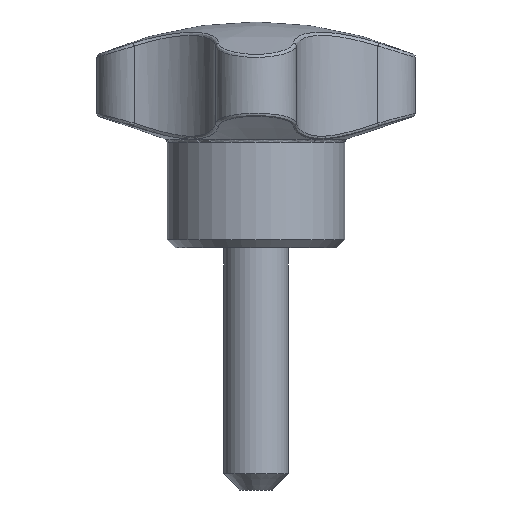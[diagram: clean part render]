
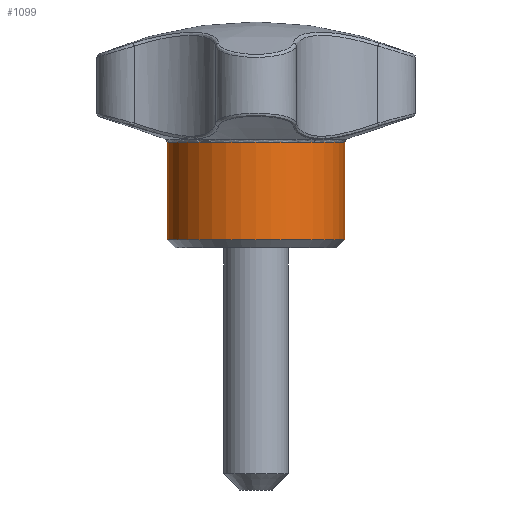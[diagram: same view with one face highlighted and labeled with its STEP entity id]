
A CAD part, front view. The second image highlights one B-rep face of the part: STEP entity #1099.
In plain terms, the highlighted cylindrical face has radius 5.5 mm (diameter 11 mm), a partial arc.
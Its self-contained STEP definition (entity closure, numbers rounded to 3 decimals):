
#1076 = ORIENTED_EDGE ( 'NONE', *, *, #3913, .T. ) ;
#1078 = EDGE_CURVE ( 'NONE', #3758, #3762, #2786, .T. ) ;
#1093 = EDGE_LOOP ( 'NONE', ( #1100, #1111, #1076, #1097 ) ) ;
#1097 = ORIENTED_EDGE ( 'NONE', *, *, #1078, .T. ) ;
#1099 = ADVANCED_FACE ( 'NONE', ( #2818 ), #2833, .T. ) ;
#1100 = ORIENTED_EDGE ( 'NONE', *, *, #3903, .F. ) ;
#1111 = ORIENTED_EDGE ( 'NONE', *, *, #3803, .T. ) ;
#2782 = DIRECTION ( 'NONE',  ( -1., 0., 0. ) ) ;
#2783 = DIRECTION ( 'NONE',  ( 0., 0., 1. ) ) ;
#2784 = CARTESIAN_POINT ( 'NONE',  ( 0., 0., 0.5 ) ) ;
#2785 = AXIS2_PLACEMENT_3D ( 'NONE', #2784, #2783, #2782 ) ;
#2786 = CIRCLE ( 'NONE', #2785, 5.5 ) ;
#2818 = FACE_OUTER_BOUND ( 'NONE', #1093, .T. ) ;
#2823 = CARTESIAN_POINT ( 'NONE',  ( 0., 0., -57. ) ) ;
#2830 = AXIS2_PLACEMENT_3D ( 'NONE', #2823, #2862, #2861 ) ;
#2833 = CYLINDRICAL_SURFACE ( 'NONE', #2830, 5.5 ) ;
#2861 = DIRECTION ( 'NONE',  ( -1., 0., 0. ) ) ;
#2862 = DIRECTION ( 'NONE',  ( 0., 0., -1. ) ) ;
#3758 = VERTEX_POINT ( 'NONE', #5935 ) ;
#3762 = VERTEX_POINT ( 'NONE', #5920 ) ;
#3776 = VERTEX_POINT ( 'NONE', #5990 ) ;
#3795 = VERTEX_POINT ( 'NONE', #6019 ) ;
#3803 = EDGE_CURVE ( 'NONE', #3795, #3776, #6018, .T. ) ;
#3903 = EDGE_CURVE ( 'NONE', #3795, #3762, #6208, .T. ) ;
#3913 = EDGE_CURVE ( 'NONE', #3776, #3758, #6204, .T. ) ;
#5920 = CARTESIAN_POINT ( 'NONE',  ( 5.5, 0., 0.5 ) ) ;
#5935 = CARTESIAN_POINT ( 'NONE',  ( -5.5, 0., 0.5 ) ) ;
#5990 = CARTESIAN_POINT ( 'NONE',  ( -5.5, 0., 6.557 ) ) ;
#5997 = DIRECTION ( 'NONE',  ( -1., 0., 0. ) ) ;
#5998 = DIRECTION ( 'NONE',  ( 0., 0., -1. ) ) ;
#6009 = AXIS2_PLACEMENT_3D ( 'NONE', #6012, #5998, #5997 ) ;
#6012 = CARTESIAN_POINT ( 'NONE',  ( 0., 0., 6.557 ) ) ;
#6018 = CIRCLE ( 'NONE', #6009, 5.5 ) ;
#6019 = CARTESIAN_POINT ( 'NONE',  ( 5.5, 0., 6.557 ) ) ;
#6194 = DIRECTION ( 'NONE',  ( 0., 0., -1. ) ) ;
#6195 = VECTOR ( 'NONE', #6194, 1000. ) ;
#6198 = DIRECTION ( 'NONE',  ( 0., 0., -1. ) ) ;
#6199 = VECTOR ( 'NONE', #6198, 1000. ) ;
#6203 = CARTESIAN_POINT ( 'NONE',  ( -5.5, 0., -57. ) ) ;
#6204 = LINE ( 'NONE', #6203, #6195 ) ;
#6207 = CARTESIAN_POINT ( 'NONE',  ( 5.5, 0., -57. ) ) ;
#6208 = LINE ( 'NONE', #6207, #6199 ) ;
